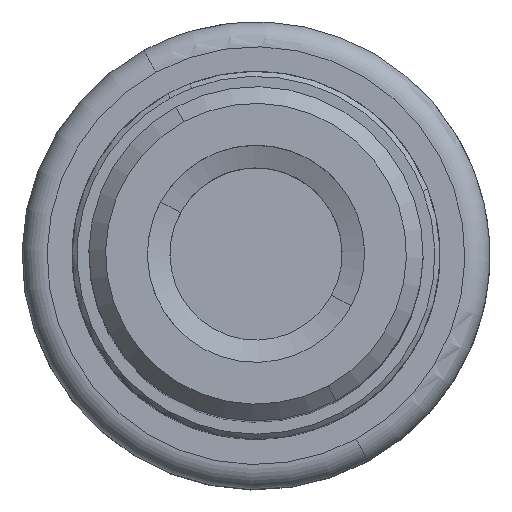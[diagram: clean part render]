
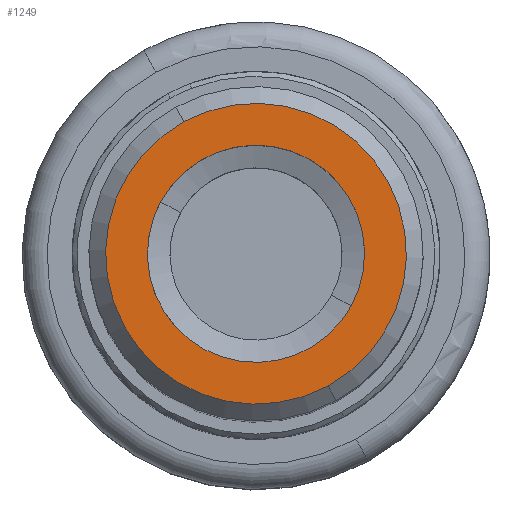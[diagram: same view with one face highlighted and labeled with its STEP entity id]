
A CAD part, top view. The second image highlights one B-rep face of the part: STEP entity #1249.
In plain terms, the highlighted planar face has unit normal (0, 0, 1).
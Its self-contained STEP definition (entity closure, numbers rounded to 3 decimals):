
#1186=AXIS2_PLACEMENT_3D('Circle Axis2P3D',#1184,#1185,$) ;
#1211=AXIS2_PLACEMENT_3D('Circle Axis2P3D',#1209,#1210,$) ;
#1225=AXIS2_PLACEMENT_3D('Plane Axis2P3D',#1222,#1223,#1224) ;
#1233=AXIS2_PLACEMENT_3D('Circle Axis2P3D',#1231,#1232,$) ;
#1242=AXIS2_PLACEMENT_3D('Circle Axis2P3D',#1240,#1241,$) ;
#1181=CARTESIAN_POINT('Vertex',(-4.315,7.898,0.)) ;
#1184=CARTESIAN_POINT('Axis2P3D Location',(0.,0.,0.)) ;
#1188=CARTESIAN_POINT('Vertex',(4.315,-7.898,0.)) ;
#1209=CARTESIAN_POINT('Axis2P3D Location',(0.,0.,0.)) ;
#1222=CARTESIAN_POINT('Axis2P3D Location',(0.,0.,0.)) ;
#1231=CARTESIAN_POINT('Axis2P3D Location',(0.,0.,0.)) ;
#1235=CARTESIAN_POINT('Vertex',(5.704,-3.116,0.)) ;
#1237=CARTESIAN_POINT('Vertex',(-5.704,3.116,0.)) ;
#1240=CARTESIAN_POINT('Axis2P3D Location',(0.,0.,0.)) ;
#1185=DIRECTION('Axis2P3D Direction',(0.,0.,-1.)) ;
#1210=DIRECTION('Axis2P3D Direction',(0.,0.,-1.)) ;
#1223=DIRECTION('Axis2P3D Direction',(0.,0.,-1.)) ;
#1224=DIRECTION('Axis2P3D XDirection',(1.,0.,0.)) ;
#1232=DIRECTION('Axis2P3D Direction',(0.,0.,-1.)) ;
#1241=DIRECTION('Axis2P3D Direction',(0.,0.,-1.)) ;
#1228=ORIENTED_EDGE('',*,*,#1190,.T.) ;
#1229=ORIENTED_EDGE('',*,*,#1213,.T.) ;
#1246=ORIENTED_EDGE('',*,*,#1239,.T.) ;
#1247=ORIENTED_EDGE('',*,*,#1244,.T.) ;
#1248=FACE_BOUND('',#1245,.T.) ;
#1249=ADVANCED_FACE('NOCUT',(#1230,#1248),#1226,.F.) ;
#1187=CIRCLE('generated circle',#1186,9.) ;
#1212=CIRCLE('generated circle',#1211,9.) ;
#1234=CIRCLE('generated circle',#1233,6.5) ;
#1243=CIRCLE('generated circle',#1242,6.5) ;
#1190=EDGE_CURVE('',#1189,#1182,#1187,.F.) ;
#1213=EDGE_CURVE('',#1182,#1189,#1212,.F.) ;
#1239=EDGE_CURVE('',#1236,#1238,#1234,.T.) ;
#1244=EDGE_CURVE('',#1238,#1236,#1243,.T.) ;
#1227=EDGE_LOOP('',(#1228,#1229)) ;
#1245=EDGE_LOOP('',(#1246,#1247)) ;
#1230=FACE_OUTER_BOUND('',#1227,.T.) ;
#1226=PLANE('',#1225) ;
#1182=VERTEX_POINT('',#1181) ;
#1189=VERTEX_POINT('',#1188) ;
#1236=VERTEX_POINT('',#1235) ;
#1238=VERTEX_POINT('',#1237) ;
